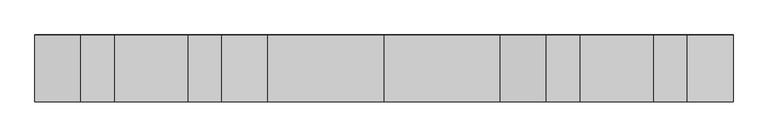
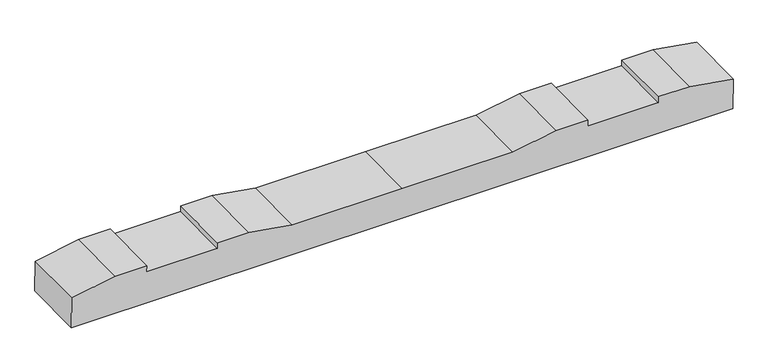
"""IFC4 building model written with IfcOpenShell, lengths in millimetres: proxy geometry, 轨枕-立面角度 : 轨枕-立面角度."""

from ifc_helpers import new_model, si_unit, frame, origin, place, context, project, spatial, polyline, outline, extrude, source, transform, mapped, element, save


def generic_models_fe35dbd4(model_context):
    return source(origin(), model_context, "Body", "SweptSolid", [
        extrude(outline(polyline([(0.0, 0.0), (2099.7669328, 0.0), (2099.7669328, -100.0206889), (1961.8834664, -124.5000001), (1861.8834664, -124.5000001), (1861.8834664, -104.5), (1637.8834664, -104.5), (1637.8834664, -124.5000001), (1537.8834664, -124.5000001), (1399.8834664, -100.0000001), (1049.8834664, -100.0000001), (699.8834664, -100.0000001), (561.8834664, -124.5000001), (461.8834664, -124.5000001), (461.8834664, -104.5), (237.8834664, -104.5), (237.8834664, -124.5000001), (137.8834664, -124.5000001), (0.0, -100.0206889), (0.0, 0.0)])), frame((-1049.8834664, -98.5861264, -105.8348983), z_axis=(0.0, 0.9999096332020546, 0.013443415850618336), x_axis=(1.0, 0.0, 0.0)), (0.0, 0.0, 1.0), 200.0),
    ])


if __name__ == "__main__":
    model = new_model("IFC4")
    model_context = context("Model", 3, world=origin())
    ifc_project = project(units=[si_unit("LENGTHUNIT", "METRE", prefix="MILLI")], contexts=[model_context])
    site = spatial("IfcSite", under=ifc_project)
    building = spatial("IfcBuilding", under=site)
    placement = place(None, origin())
    generic_models_shape = generic_models_fe35dbd4(model_context)
    element("IfcBuildingElementProxy", 1, Name="轨枕-立面角度 : 轨枕-立面角度", ObjectType="轨枕-立面角度 : 轨枕-立面角度", at=placement, inside=building, context=model_context, shape_type="MappedRepresentation", body=[
        mapped(generic_models_shape, transform((0.0, 0.0, 0.0), x_axis=(1.0, 0.0, 0.0), y_axis=(0.0, 1.0, 0.0), z_axis=(0.0, 0.0, 1.0))),
    ])
    save(model, "model.ifc")
